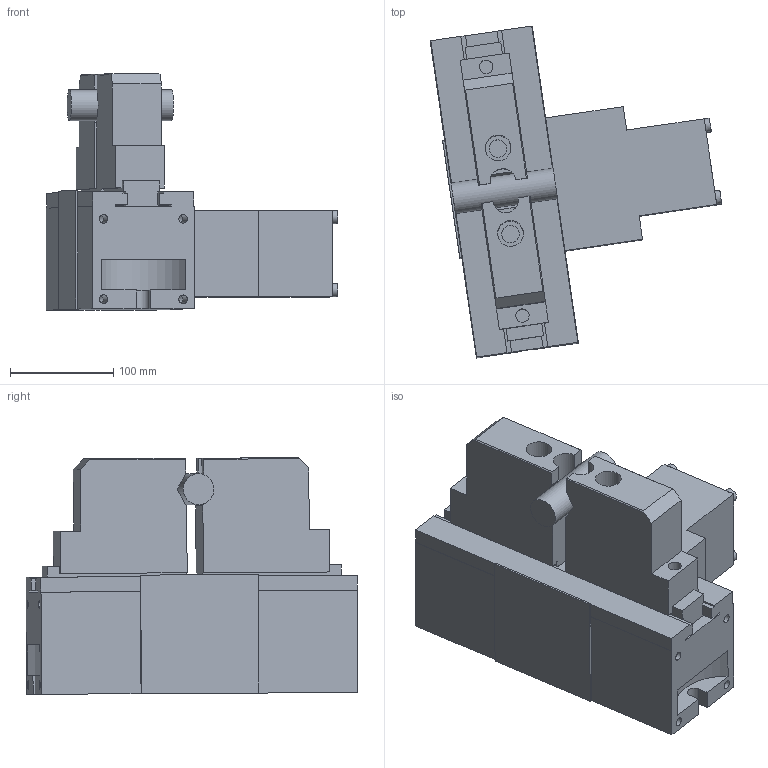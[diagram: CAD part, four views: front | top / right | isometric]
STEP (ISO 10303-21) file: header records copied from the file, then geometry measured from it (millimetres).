
FILE_DESCRIPTION((''),'2;1');
FILE_NAME('C:\VaultWork\Zeichnungen\Maßblätter\PZ100\R03758-2-1 Zentrierspannstock PZ100 Spannbereich 18-32.stp','2009-07-23T16:53:58',('Test'),(''),'Autodesk Inventor 2008','Autodesk Inventor 2008','');
FILE_SCHEMA(('AUTOMOTIVE_DESIGN { 1 0 10303 214 1 1 1 1 }'));
Length unit declared in the file: millimetre
Products named in the file (1): R03758-2-1 Zentrierspannstock PZ100 Spannbereich 18-32
Bounding box: 282.74 x 321.74 x 229.45 mm (x, y, z)
Volume: 5938001.8 mm3; surface area: 367616.9 mm2
Topology: 2 solids, 6 shells, 228 faces, 612 edges, 396 vertices
Faces by surface type: plane 168, bspline 29, cylinder 23, cone 8
Full cylindrical faces by diameter (mm): 4 x4, 8 x4, 9 x4, 13 x4, 30 x1
Entity records: 7152 total; most frequent: CARTESIAN_POINT 1636, ORIENTED_EDGE 1064, DIRECTION 996, EDGE_CURVE 532, VECTOR 420, LINE 420, VERTEX_POINT 362, EDGE_LOOP 312
